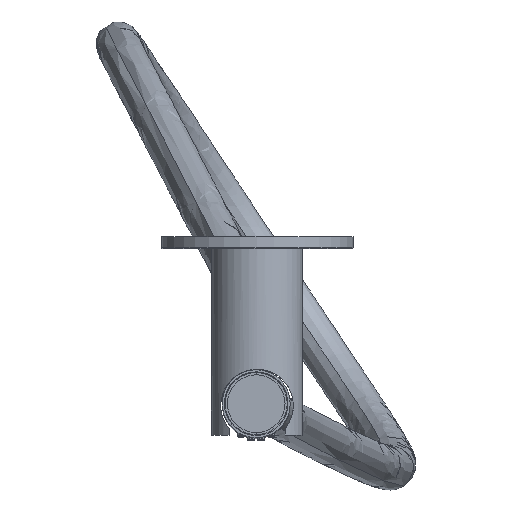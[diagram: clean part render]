
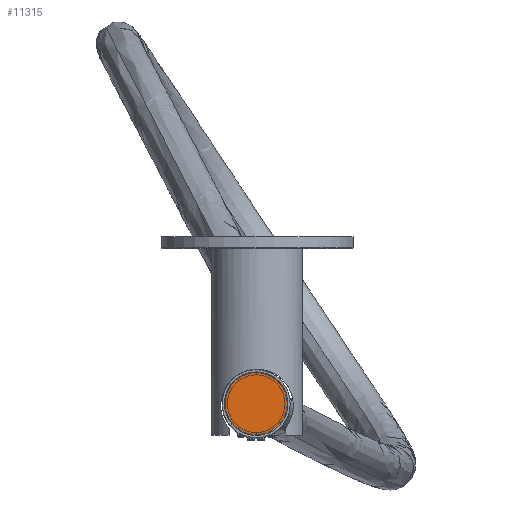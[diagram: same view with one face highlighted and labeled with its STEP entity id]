
A CAD part, top view. The second image highlights one B-rep face of the part: STEP entity #11315.
In plain terms, the highlighted free-form (B-spline) face has degree [2, 2] with [9, 5] control points.
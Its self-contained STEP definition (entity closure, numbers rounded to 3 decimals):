
#8781=CARTESIAN_POINT('',(-0.012,-1.818,7.885));
#8782=VERTEX_POINT('',#8781);
#8789=CARTESIAN_POINT('',(-0.012,-2.645,7.885));
#8790=VERTEX_POINT('',#8789);
#8791=CARTESIAN_POINT('',(-0.012,-2.232,7.885));
#8792=DIRECTION('',(0.,0.,1.));
#8793=DIRECTION('',(0.,-1.,0.));
#8794=AXIS2_PLACEMENT_3D('',#8791,#8792,#8793);
#8795=CIRCLE('',#8794,0.413);
#8796=EDGE_CURVE('',#8790,#8782,#8795,.T.);
#11246=CARTESIAN_POINT('',(-0.012,-2.232,7.885));
#11247=DIRECTION('',(0.,0.,1.));
#11248=DIRECTION('',(0.,1.,0.));
#11249=AXIS2_PLACEMENT_3D('',#11246,#11247,#11248);
#11250=CIRCLE('',#11249,0.413);
#11251=EDGE_CURVE('',#8782,#8790,#11250,.T.);
#11258=CARTESIAN_POINT('',(-0.012,-7.743,2.389));
#11259=CARTESIAN_POINT('',(-0.012,-7.743,2.389));
#11260=CARTESIAN_POINT('',(-0.012,-7.743,2.389));
#11261=CARTESIAN_POINT('',(-0.012,-7.743,2.389));
#11262=CARTESIAN_POINT('',(-0.012,-7.743,2.389));
#11263=CARTESIAN_POINT('',(-0.012,-7.743,2.389));
#11264=CARTESIAN_POINT('',(-0.012,-7.743,2.389));
#11265=CARTESIAN_POINT('',(-0.012,-7.743,2.389));
#11266=CARTESIAN_POINT('',(-0.012,-7.743,2.389));
#11267=CARTESIAN_POINT('',(0.409,-7.743,7.885));
#11268=CARTESIAN_POINT('',(5.905,-7.743,7.463));
#11269=CARTESIAN_POINT('',(5.484,-7.743,1.967));
#11270=CARTESIAN_POINT('',(5.062,-7.743,-3.528));
#11271=CARTESIAN_POINT('',(-0.433,-7.743,-3.107));
#11272=CARTESIAN_POINT('',(-5.929,-7.743,-2.685));
#11273=CARTESIAN_POINT('',(-5.508,-7.743,2.81));
#11274=CARTESIAN_POINT('',(-5.086,-7.743,8.306));
#11275=CARTESIAN_POINT('',(0.409,-7.743,7.885));
#11276=CARTESIAN_POINT('',(0.409,-2.232,7.885));
#11277=CARTESIAN_POINT('',(5.905,-2.232,7.463));
#11278=CARTESIAN_POINT('',(5.484,-2.232,1.967));
#11279=CARTESIAN_POINT('',(5.062,-2.232,-3.528));
#11280=CARTESIAN_POINT('',(-0.433,-2.232,-3.107));
#11281=CARTESIAN_POINT('',(-5.929,-2.232,-2.685));
#11282=CARTESIAN_POINT('',(-5.508,-2.232,2.81));
#11283=CARTESIAN_POINT('',(-5.086,-2.232,8.306));
#11284=CARTESIAN_POINT('',(0.409,-2.232,7.885));
#11285=CARTESIAN_POINT('',(0.409,3.28,7.885));
#11286=CARTESIAN_POINT('',(5.905,3.28,7.463));
#11287=CARTESIAN_POINT('',(5.484,3.28,1.967));
#11288=CARTESIAN_POINT('',(5.062,3.28,-3.528));
#11289=CARTESIAN_POINT('',(-0.433,3.28,-3.107));
#11290=CARTESIAN_POINT('',(-5.929,3.28,-2.685));
#11291=CARTESIAN_POINT('',(-5.508,3.28,2.81));
#11292=CARTESIAN_POINT('',(-5.086,3.28,8.306));
#11293=CARTESIAN_POINT('',(0.409,3.28,7.885));
#11294=CARTESIAN_POINT('',(-0.012,3.28,2.389));
#11295=CARTESIAN_POINT('',(-0.012,3.28,2.389));
#11296=CARTESIAN_POINT('',(-0.012,3.28,2.389));
#11297=CARTESIAN_POINT('',(-0.012,3.28,2.389));
#11298=CARTESIAN_POINT('',(-0.012,3.28,2.389));
#11299=CARTESIAN_POINT('',(-0.012,3.28,2.389));
#11300=CARTESIAN_POINT('',(-0.012,3.28,2.389));
#11301=CARTESIAN_POINT('',(-0.012,3.28,2.389));
#11302=CARTESIAN_POINT('',(-0.012,3.28,2.389));
#11310=(BOUNDED_SURFACE()B_SPLINE_SURFACE(2,2,((#11258,#11267,#11276,#11285,#11294),(#11259,#11268,#11277,#11286,#11295),(#11260,#11269,#11278,#11287,#11296),(#11261,#11270,#11279,#11288,#11297),(#11262,#11271,#11280,#11289,#11298),(#11263,#11272,#11281,#11290,#11299),(#11264,#11273,#11282,#11291,#11300),(#11265,#11274,#11283,#11292,#11301),(#11266,#11275,#11284,#11293,#11302)),.UNSPECIFIED.,.T.,.F.,.U.)B_SPLINE_SURFACE_WITH_KNOTS((3,2,2,2,3),(3,2,3),(0.0,0.25,0.5,0.75,1.0),(0.0,0.5,1.0),.UNSPECIFIED.)GEOMETRIC_REPRESENTATION_ITEM()RATIONAL_B_SPLINE_SURFACE(((1.0,0.707,1.0,0.707,1.0),(0.707,0.5,0.707,0.5,0.707),(1.0,0.707,1.0,0.707,1.0),(0.707,0.5,0.707,0.5,0.707),(1.0,0.707,1.0,0.707,1.0),(0.707,0.5,0.707,0.5,0.707),(1.0,0.707,1.0,0.707,1.0),(0.707,0.5,0.707,0.5,0.707),(1.0,0.707,1.0,0.707,1.0)))REPRESENTATION_ITEM('')SURFACE());
#11311=ORIENTED_EDGE('',*,*,#8796,.T.);
#11312=ORIENTED_EDGE('',*,*,#11251,.T.);
#11313=EDGE_LOOP('',(#11311,#11312));
#11314=FACE_OUTER_BOUND('',#11313,.T.);
#11315=ADVANCED_FACE('',(#11314),#11310,.T.);
